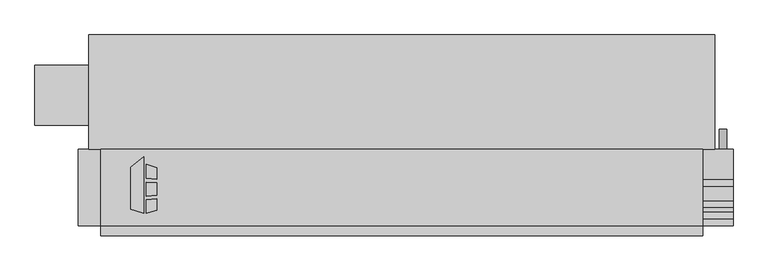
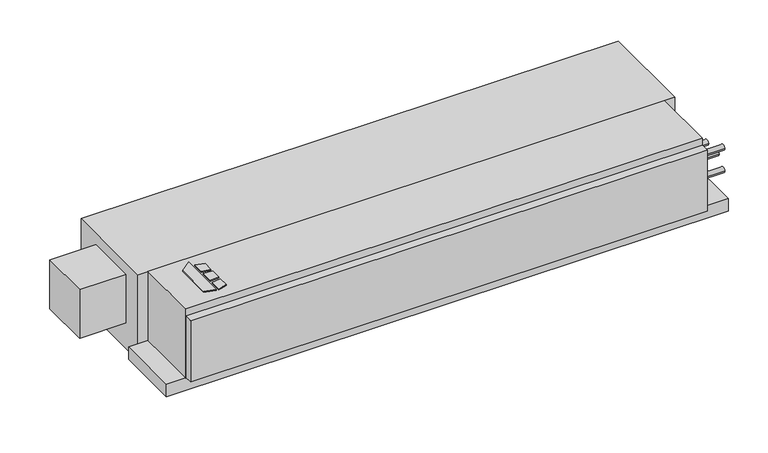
"""IFC4 building model written with IfcOpenShell, lengths in millimetres: proxy geometry, Concealed_Horizontal_Fan_Coil_Unit_With_Plenum_-_CPY_-_IEC_-_4-Pipe_RH_2022 : Size 12 - 277v/60Hz/1Ph - 4/1 Coil."""

from ifc_helpers import new_model, si_unit, point, frame, frame_2d, origin, origin_with_axes, place, context, project, spatial, polyline, circle_curve, trimmed, segment, composite_curve, outline, extrude, source, transform, mapped, element, save


def mechanical_equipment_0d2534ca(model_context):
    return source(origin(), model_context, "Body", "SweptSolid", [
        extrude(outline(polyline([(-533.4, -186.6953476), (-500.8417033, -161.2580184), (-500.8417033, -303.2125), (-533.4, -292.9929201), (-533.4, -186.6953476)])), origin_with_axes(), (0.0, 0.0, 1.0), 3.175),
        extrude(outline(polyline([(-494.0833703, -214.567352), (-494.0833703, -180.0874379), (-468.0019761, -188.2740115), (-468.0019761, -217.7697446), (-494.0833703, -214.567352)])), origin_with_axes(), (0.0, 0.0, 1.0), 3.175),
        extrude(outline(polyline([(-468.0019761, -296.2240115), (-494.0833703, -303.2125), (-494.0833703, -269.9911996), (-468.0019761, -266.4493564), (-468.0019761, -296.2240115)])), origin_with_axes(), (0.0, 0.0, 1.0), 3.175),
        extrude(outline(polyline([(-468.0019761, -226.8513277), (-468.0019761, -258.101483), (-494.0833703, -260.842748), (-494.0833703, -224.9850378), (-468.0019761, -226.8513277)])), origin_with_axes(), (0.0, 0.0, 1.0), 3.175),
        extrude(outline(composite_curve([segment(trimmed(circle_curve(frame_2d((-241.3, 965.2)), 9.525), [point((-241.3, 955.675))], [point((-241.3, 974.725))], False, "CARTESIAN"), True, "CONTINUOUS"), segment(trimmed(circle_curve(frame_2d((-241.3, 965.2)), 9.525), [point((-241.3, 974.725))], [point((-241.3, 955.675))], False, "CARTESIAN"), True, "CONTINUOUS")], self_intersect=False)), frame((0.0, -141.2875, 0.0), z_axis=(0.0, 1.0, 0.0), x_axis=(0.0, 0.0, 1.0)), (0.0, 0.0, 1.0), 50.8),
        extrude(outline(composite_curve([segment(trimmed(circle_curve(frame_2d((-309.5625, -69.85)), 7.9375), [point((-317.5, -69.85))], [point((-301.625, -69.85))], False, "CARTESIAN"), True, "CONTINUOUS"), segment(trimmed(circle_curve(frame_2d((-309.5625, -69.85)), 7.9375), [point((-301.625, -69.85))], [point((-317.5, -69.85))], False, "CARTESIAN"), True, "CONTINUOUS")], self_intersect=False)), frame((914.4, 0.0, 0.0), z_axis=(1.0, 0.0, 0.0), x_axis=(0.0, 1.0, 0.0)), (0.0, 0.0, 1.0), 76.2),
        extrude(outline(composite_curve([segment(trimmed(circle_curve(frame_2d((-309.5625, -139.7)), 7.9375), [point((-317.5, -139.7))], [point((-301.625, -139.7))], False, "CARTESIAN"), True, "CONTINUOUS"), segment(trimmed(circle_curve(frame_2d((-309.5625, -139.7)), 7.9375), [point((-301.625, -139.7))], [point((-317.5, -139.7))], False, "CARTESIAN"), True, "CONTINUOUS")], self_intersect=False)), frame((914.4, 0.0, 0.0), z_axis=(1.0, 0.0, 0.0), x_axis=(0.0, 1.0, 0.0)), (0.0, 0.0, 1.0), 76.2),
        extrude(outline(composite_curve([segment(trimmed(circle_curve(frame_2d((-227.0125, -104.775)), 7.9375), [point((-234.95, -104.775))], [point((-219.075, -104.775))], False, "CARTESIAN"), True, "CONTINUOUS"), segment(trimmed(circle_curve(frame_2d((-227.0125, -104.775)), 7.9375), [point((-219.075, -104.775))], [point((-234.95, -104.775))], False, "CARTESIAN"), True, "CONTINUOUS")], self_intersect=False)), frame((914.4, 0.0, 0.0), z_axis=(1.0, 0.0, 0.0), x_axis=(0.0, 1.0, 0.0)), (0.0, 0.0, 1.0), 76.2),
        extrude(outline(composite_curve([segment(trimmed(circle_curve(frame_2d((-280.9875, -104.775)), 7.9375), [point((-288.925, -104.775))], [point((-273.05, -104.775))], False, "CARTESIAN"), True, "CONTINUOUS"), segment(trimmed(circle_curve(frame_2d((-280.9875, -104.775)), 7.9375), [point((-273.05, -104.775))], [point((-288.925, -104.775))], False, "CARTESIAN"), True, "CONTINUOUS")], self_intersect=False)), frame((914.4, 0.0, 0.0), z_axis=(1.0, 0.0, 0.0), x_axis=(0.0, 1.0, 0.0)), (0.0, 0.0, 1.0), 76.2),
        extrude(outline(polyline([(914.4, -334.9625), (914.4, -360.3625), (-609.6, -360.3625), (-609.6, -334.9625), (914.4, -334.9625)])), frame((0.0, 0.0, -212.725), z_axis=(0.0, 0.0, 1.0), x_axis=(1.0, 0.0, 0.0)), (0.0, 0.0, 1.0), 190.5),
        extrude(outline(polyline([(914.4, -334.9625), (-609.6, -334.9625), (-609.6, -141.2875), (914.4, -141.2875), (914.4, -334.9625)])), frame((0.0, 0.0, -215.9), z_axis=(0.0, 0.0, 1.0), x_axis=(1.0, 0.0, 0.0)), (0.0, 0.0, 1.0), 215.9),
        extrude(outline(polyline([(990.6, -141.2875), (990.6, -334.9625), (-666.75, -334.9625), (-666.75, -141.2875), (990.6, -141.2875)])), frame((0.0, 0.0, -254.0), z_axis=(0.0, 0.0, 1.0), x_axis=(1.0, 0.0, 0.0)), (0.0, 0.0, 1.0), 38.1),
        extrude(outline(polyline([(-776.2875, -80.9625), (-776.2875, 71.4375), (-639.7625, 71.4375), (-639.7625, -80.9625), (-776.2875, -80.9625)])), frame((0.0, 0.0, -187.325), z_axis=(0.0, 0.0, 1.0), x_axis=(1.0, 0.0, 0.0)), (0.0, 0.0, 1.0), 152.4),
        extrude(outline(polyline([(-639.7625, 147.6375), (944.5625, 147.6375), (944.5625, -141.2875), (-639.7625, -141.2875), (-639.7625, 147.6375)])), frame((0.0, 0.0, -266.7), z_axis=(0.0, 0.0, 1.0), x_axis=(1.0, 0.0, 0.0)), (0.0, 0.0, 1.0), 266.7),
    ])


if __name__ == "__main__":
    model = new_model("IFC4")
    model_context = context("Model", 3, world=origin())
    ifc_project = project(units=[si_unit("LENGTHUNIT", "METRE", prefix="MILLI")], contexts=[model_context])
    site = spatial("IfcSite", under=ifc_project)
    building = spatial("IfcBuilding", under=site)
    placement = place(None, origin())
    mechanical_equipment_shape = mechanical_equipment_0d2534ca(model_context)
    element("IfcBuildingElementProxy", 1, Name="Concealed_Horizontal_Fan_Coil_Unit_With_Plenum_-_CPY_-_IEC_-_4-Pipe_RH_2022 : Size 12 - 277v/60Hz/1Ph - 4/1 Coil", ObjectType="Concealed_Horizontal_Fan_Coil_Unit_With_Plenum_-_CPY_-_IEC_-_4-Pipe_RH_2022 : Size 12 - 277v/60Hz/1Ph - 4/1 Coil", at=placement, inside=building, context=model_context, shape_type="MappedRepresentation", body=[
        mapped(mechanical_equipment_shape, transform((0.0, 0.0, 0.0), x_axis=(1.0, 0.0, 0.0), y_axis=(0.0, 1.0, 0.0), z_axis=(0.0, 0.0, 1.0))),
    ])
    save(model, "model.ifc")
